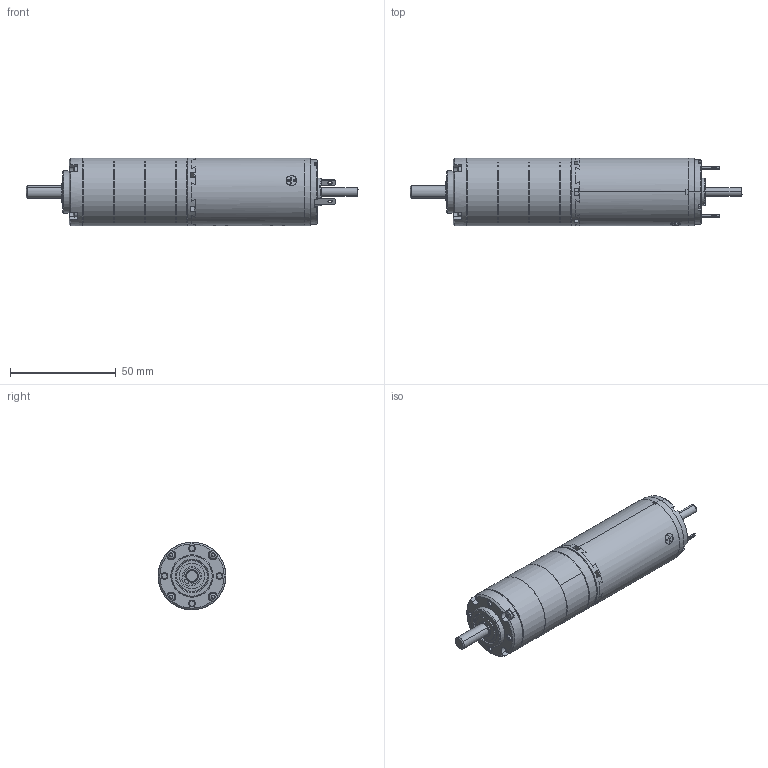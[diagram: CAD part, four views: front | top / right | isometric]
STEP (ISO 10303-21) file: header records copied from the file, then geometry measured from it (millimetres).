
FILE_DESCRIPTION (( 'STEP AP214' ), '1' );
FILE_NAME ('AMAX32GHP+PM32-3etages_2016.STEP', '2016-12-19T16:07:28', ( 'maxon motor' ), ( 'maxon motor' ), 'SwSTEP 2.0', 'SolidWorks 2015', '' );
FILE_SCHEMA (( 'AUTOMOTIVE_DESIGN' ));
Length unit declared in the file: millimetre
Products named in the file (20): FLACHKOPFSCHRAUBE_M2X21_PRECOTE_2; GK235_POS42_DICHTRING_2; DIN471_SR_06X00_7_2; GK545_POS23_4_ABTRIEB_LK4_KPL_2; GK235_POS13_LAGERBOLZEN_2; GK545_POS22_ABTRIEB_ROHTEIL_AF0_2; DIN998_PS_6X12X0_5_2; D625-619_6-2Z_2; D472_15X1_2; 8101913_LAGERFLANSCH_2; P8209_8100249_ZAHNKRANZ_1ST_2; A-max32-236651; PM32 pour Amax32_3 etages; AMAX32GHP+PM32-3etages_2016; SCHRAUBEN_1232149; 8015677_MOTORFLANSCH; Cotﾚ moteur^PM32 pour Amax32; 8002481_MOTORRITZEL_Z17; 8011610_ANLAUFSCHEIBE_G_1ST_2; Cotﾚ sortie^PM32 pour Amax32
Assembly tree (33 placements, depth 5):
  AMAX32GHP+PM32-3etages_2016
    A-max32-236651
    PM32 pour Amax32_3 etages
      P8209_8100249_ZAHNKRANZ_1ST_2  x3
      Cotﾚ sortie^PM32 pour Amax32
        8101913_LAGERFLANSCH_2
        D472_15X1_2
        D625-619_6-2Z_2  x2
        DIN998_PS_6X12X0_5_2  x2
        GK545_POS23_4_ABTRIEB_LK4_KPL_2
          GK545_POS22_ABTRIEB_ROHTEIL_AF0_2
          GK235_POS13_LAGERBOLZEN_2  x3
        DIN471_SR_06X00_7_2
        GK235_POS42_DICHTRING_2
        FLACHKOPFSCHRAUBE_M2X21_PRECOTE_2  x4
      Cotﾚ moteur^PM32 pour Amax32
        GK235_POS42_DICHTRING_2
        8011610_ANLAUFSCHEIBE_G_1ST_2
        8002481_MOTORRITZEL_Z17
      GK235_POS42_DICHTRING_2  x2
      8015677_MOTORFLANSCH
      SCHRAUBEN_1232149  x3
Bounding box: 157.05 x 32 x 32 mm (x, y, z)
Volume: 19292.4 mm3; surface area: 41467.4 mm2
Topology: 23 solids, 55 shells, 2165 faces, 5878 edges, 3847 vertices
Faces by surface type: cylinder 1024, plane 792, cone 180, torus 111, bspline 50, sphere 8
Entity records: 67605 total; most frequent: CARTESIAN_POINT 18416, ORIENTED_EDGE 8073, DIRECTION 8062, EDGE_CURVE 4058, AXIS2_PLACEMENT_3D 3078, VERTEX_POINT 2656, LINE 1906, VECTOR 1906
